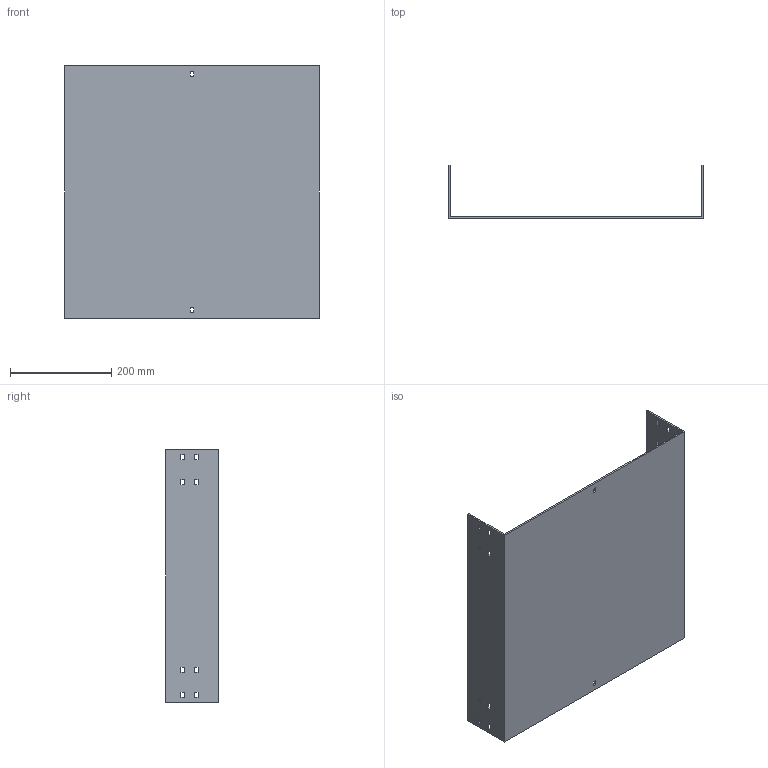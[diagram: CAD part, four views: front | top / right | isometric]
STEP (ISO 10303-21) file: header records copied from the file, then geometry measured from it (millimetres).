
FILE_DESCRIPTION (( 'STEP AP214' ), '1' );
FILE_NAME ('03F7D500.step', '2025-02-21T13:16:55', ( '' ), ( '' ), 'SwSTEP 2.0', 'SolidWorks 2023', '' );
FILE_SCHEMA (( 'AUTOMOTIVE_DESIGN' ));
Length unit declared in the file: millimetre
Products named in the file (1): 03F7D500
Bounding box: 504 x 104 x 500 mm (x, y, z)
Volume: 1229420.5 mm3; surface area: 713082 mm2
Topology: 1 solids, 1 shells, 82 faces, 240 edges, 160 vertices
Faces by surface type: plane 82
Entity records: 2759 total; most frequent: CARTESIAN_POINT 483, ORIENTED_EDGE 480, DIRECTION 406, LINE 240, EDGE_CURVE 240, VECTOR 240, VERTEX_POINT 160, EDGE_LOOP 118
